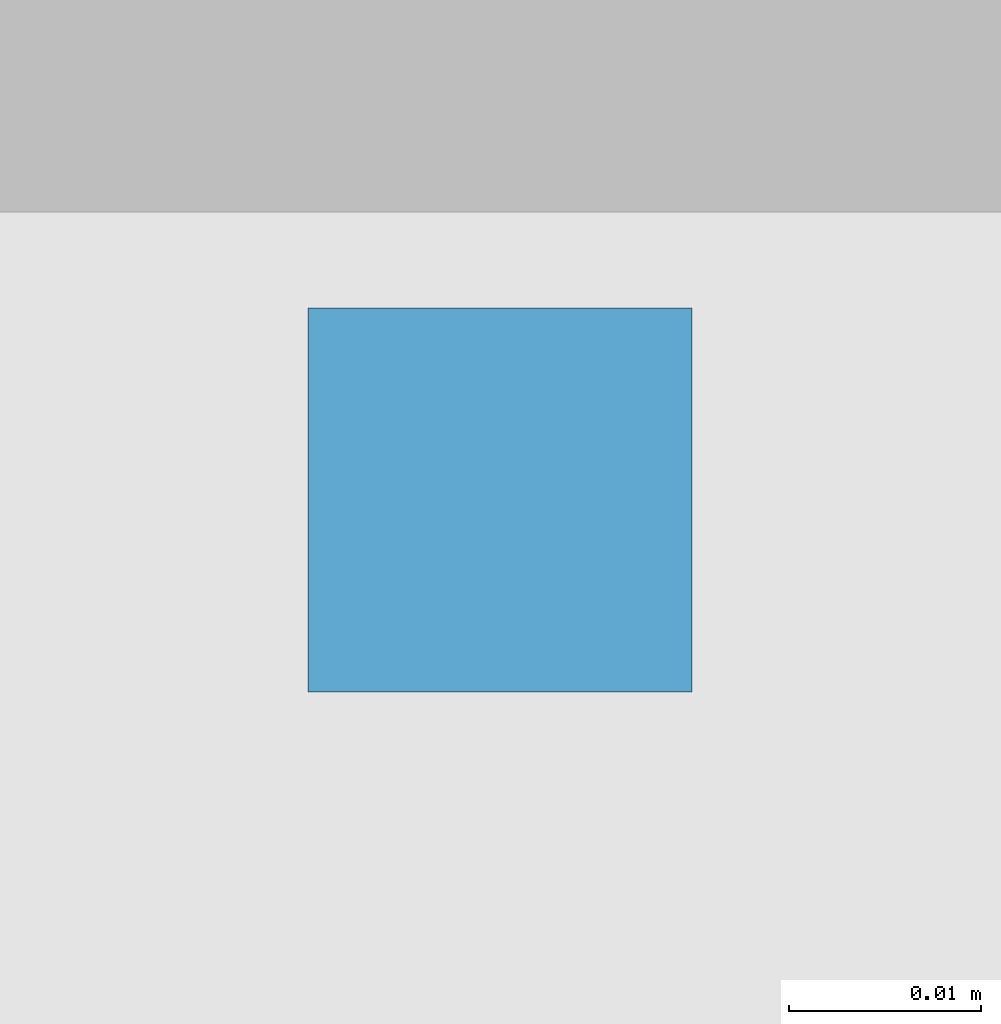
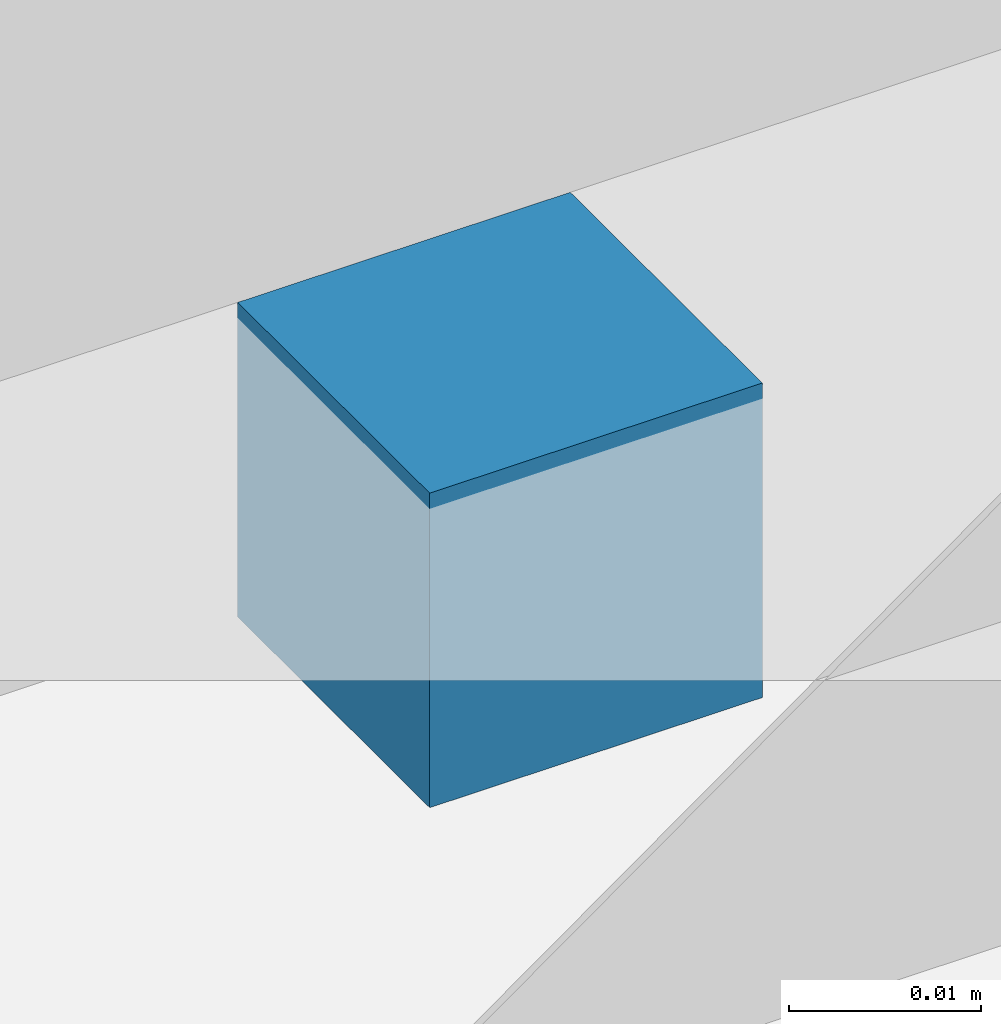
# One storey, part 114 of 153: 1 plate, 1 element without a shape of its own.
"""IFC4 building model written with IfcOpenShell, lengths in metres."""

from ifc_helpers import new_model, entity, si_unit, converted_unit, derived_unit, direction, frame, origin, place, context, subcontext, project, spatial, indexed_curve, outline, extrude, source, transform, mapped, material, type_object, type_shapes, element, aggregate, save


model = new_model("IFC4")

# Units and contexts
model_context = context("Model", 3, precision=1e-05, world=origin(), true_north=direction((6.123031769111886e-17, 1.0)))
body_context = subcontext(model_context, "Body", "Model", "MODEL_VIEW")
ifc_project = project(units=[si_unit("LENGTHUNIT", "METRE"), si_unit("AREAUNIT", "SQUARE_METRE"), si_unit("VOLUMEUNIT", "CUBIC_METRE"), converted_unit("PLANEANGLEUNIT", "DEGREE", entity("IfcRatioMeasure", 0.017453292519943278), si_unit("PLANEANGLEUNIT", "RADIAN"), dimensions=[0, 0, 0, 0, 0, 0, 0]), si_unit("MASSUNIT", "GRAM", prefix="KILO"), derived_unit("MASSDENSITYUNIT", [(si_unit("MASSUNIT", "GRAM", prefix="KILO"), 1), (si_unit("LENGTHUNIT", "METRE"), -3)]), derived_unit("MOMENTOFINERTIAUNIT", [(si_unit("LENGTHUNIT", "METRE"), 4)]), si_unit("TIMEUNIT", "SECOND"), si_unit("FREQUENCYUNIT", "HERTZ"), si_unit("THERMODYNAMICTEMPERATUREUNIT", "DEGREE_CELSIUS"), derived_unit("THERMALTRANSMITTANCEUNIT", [(si_unit("MASSUNIT", "GRAM", prefix="KILO"), 1), (si_unit("THERMODYNAMICTEMPERATUREUNIT", "KELVIN"), -1), (si_unit("TIMEUNIT", "SECOND"), -3)]), derived_unit("VOLUMETRICFLOWRATEUNIT", [(si_unit("LENGTHUNIT", "METRE"), 3), (si_unit("TIMEUNIT", "SECOND"), -1)]), derived_unit("MASSFLOWRATEUNIT", [(si_unit("MASSUNIT", "GRAM", prefix="KILO"), 1), (si_unit("TIMEUNIT", "SECOND"), -1)]), derived_unit("ROTATIONALFREQUENCYUNIT", [(si_unit("TIMEUNIT", "SECOND"), -1)]), si_unit("ELECTRICCURRENTUNIT", "AMPERE"), si_unit("ELECTRICVOLTAGEUNIT", "VOLT"), si_unit("POWERUNIT", "WATT"), si_unit("FORCEUNIT", "NEWTON", prefix="KILO"), si_unit("ILLUMINANCEUNIT", "LUX"), si_unit("LUMINOUSFLUXUNIT", "LUMEN"), si_unit("LUMINOUSINTENSITYUNIT", "CANDELA"), derived_unit("USERDEFINED", [(si_unit("MASSUNIT", "GRAM", prefix="KILO"), -1), (si_unit("LENGTHUNIT", "METRE"), -2), (si_unit("TIMEUNIT", "SECOND"), 3), (si_unit("LUMINOUSFLUXUNIT", "LUMEN"), 1)]), derived_unit("SOUNDPOWERUNIT", [(si_unit("MASSUNIT", "GRAM", prefix="KILO"), 1), (si_unit("LENGTHUNIT", "METRE"), 2), (si_unit("TIMEUNIT", "SECOND"), -3)]), derived_unit("SOUNDPRESSUREUNIT", [(si_unit("MASSUNIT", "GRAM", prefix="KILO"), 1), (si_unit("LENGTHUNIT", "METRE"), -1), (si_unit("TIMEUNIT", "SECOND"), -2)]), derived_unit("LINEARVELOCITYUNIT", [(si_unit("LENGTHUNIT", "METRE"), 1), (si_unit("TIMEUNIT", "SECOND"), -1)]), si_unit("PRESSUREUNIT", "PASCAL"), derived_unit("USERDEFINED", [(si_unit("LENGTHUNIT", "METRE"), -2), (si_unit("MASSUNIT", "GRAM", prefix="KILO"), 1), (si_unit("TIMEUNIT", "SECOND"), -2)]), derived_unit("LINEARFORCEUNIT", [(si_unit("MASSUNIT", "GRAM", prefix="KILO"), 1), (si_unit("LENGTHUNIT", "METRE"), 1), (si_unit("TIMEUNIT", "SECOND"), -2), (si_unit("LENGTHUNIT", "METRE"), -1)]), derived_unit("PLANARFORCEUNIT", [(si_unit("MASSUNIT", "GRAM", prefix="KILO"), 1), (si_unit("LENGTHUNIT", "METRE"), 1), (si_unit("TIMEUNIT", "SECOND"), -2), (si_unit("LENGTHUNIT", "METRE"), -2)])], contexts=[model_context])

# Site, building, storey
site_placement = place(None, origin())
site = spatial("IfcSite", under=ifc_project, at=site_placement, Name="Superficie", CompositionType="ELEMENT")
building_placement = place(site_placement, origin())
building = spatial("IfcBuilding", under=site, at=building_placement, CompositionType="ELEMENT")
storey_placement = place(building_placement, frame((0.0, 0.0, 3.5999999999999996)))
storey = spatial("IfcBuildingStorey", under=building, at=storey_placement, Name="Nivel 1", CompositionType="ELEMENT", Elevation=3.5999999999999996)

# Curtain wall, plate
curtain_wall_type = type_object("IfcCurtainWallType", Name="Muro cortina:Muro cortina - simple", PredefinedType="NOTDEFINED")
curtain_wall_placement = place(storey_placement, frame((0.0, 0.0, -3.5999999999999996)))
curtain_wall = element("IfcCurtainWall", 1, at=curtain_wall_placement, inside=storey, type_object=curtain_wall_type, Name="Muro cortina:Muro cortina - simple", ObjectType="Muro cortina:Muro cortina - simple", PredefinedType="NOTDEFINED")
ifc_material = material(Name="Cristal", Category="Vidrio")
plate_type = type_object("IfcPlateType", Name="Panel de sistema:Acristalado", PredefinedType="CURTAIN_PANEL", material=ifc_material)
shared_shape = source(origin(), body_context, "Body", "SweptSolid", [
    extrude(outline(indexed_curve([(-0.01, -0.009999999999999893), (0.01, -0.009999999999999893), (0.01, 0.009999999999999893), (-0.01, 0.009999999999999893), (-0.01, -0.009999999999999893)], self_intersect=False)), frame((0.0, 0.0, 0.0), z_axis=(0.0, 0.0, 1.0), x_axis=(0.0, 1.0, 0.0)), (0.0, 0.0, 1.0), 0.02000000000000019),
])
type_shapes(plate_type, [shared_shape])
plate_placement = place(curtain_wall_placement, frame((-13.023200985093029, 5.266393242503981, 3.5999999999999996), z_axis=(0.0, 0.0, 1.0), x_axis=(0.0, 1.0, 0.0)))
plate = element("IfcPlate", 2, at=plate_placement, type_object=plate_type, material=ifc_material, Name="Panel de sistema:Acristalado", ObjectType="Panel de sistema:Acristalado", PredefinedType="CURTAIN_PANEL", context=body_context, shape_type="MappedRepresentation", body=[
    mapped(shared_shape, transform((0.0, 0.0, 0.0), scale=1.0)),
])
aggregate(curtain_wall, [plate])

save(model, "model.ifc")
